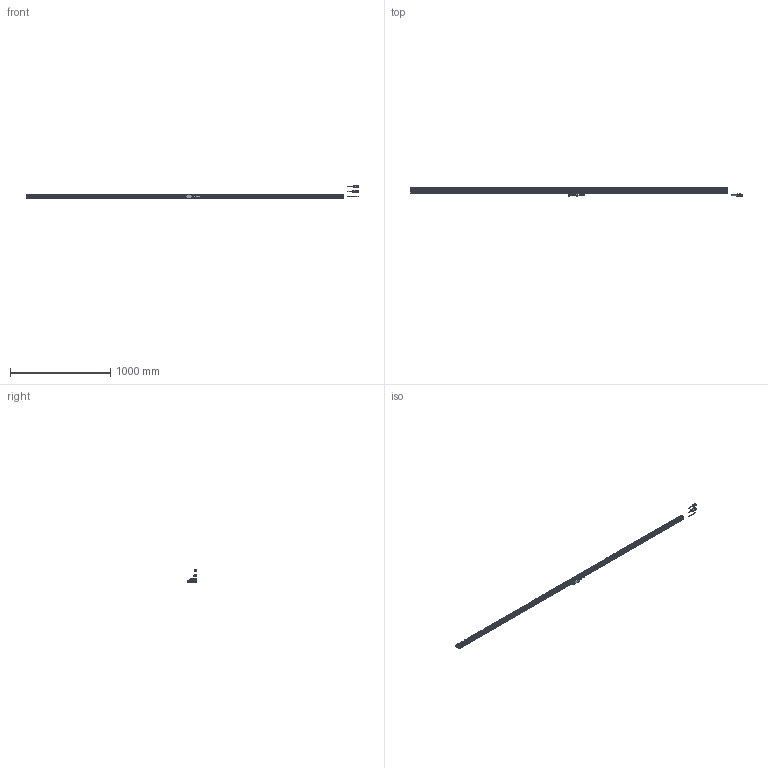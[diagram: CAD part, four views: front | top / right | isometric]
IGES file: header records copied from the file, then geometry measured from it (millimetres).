
Start section: Elysium IGES Interface
Global section: file name: 66H\\Utsu119s\kiyo_cad\data\3D\AT402E\HP掲載用_201708\AT402E-3040.igs; native system: Creo Elements/Direct Modeling 18.1B  29-Sep-2012; preprocessor: Creo Element/Direct IGES_3D V2.2; author: Unknown; organization: Unknown; date: 20180221.133158; units: millimetre
Bounding box: 3309.57 x 90 x 130.25 mm (x, y, z)
Volume: 5184354.8 mm3; surface area: 657961.6 mm2
Topology: 5 solids, 5 shells, 1899 faces, 5808 edges, 3907 vertices
Faces by surface type: bspline 1899
